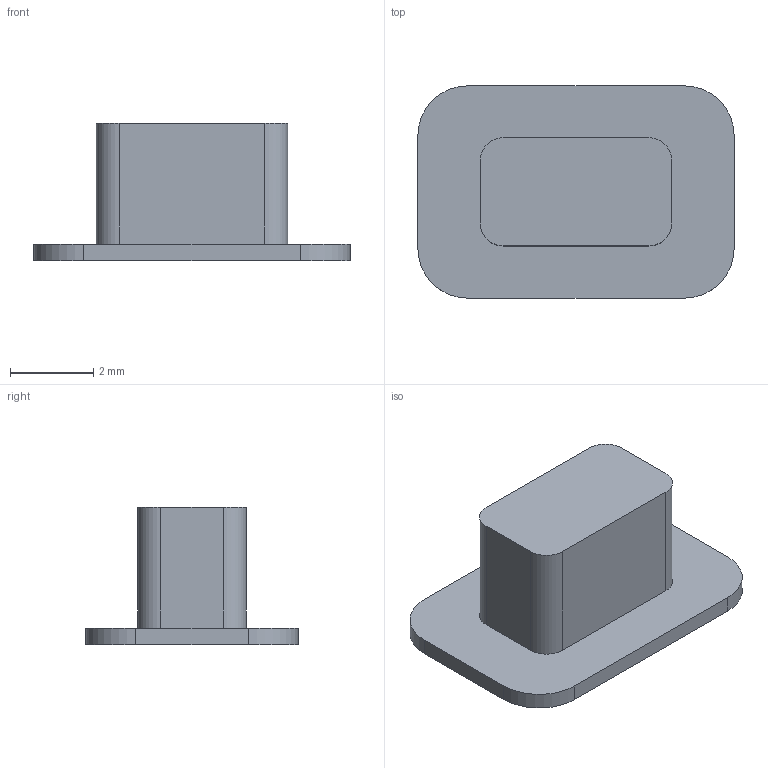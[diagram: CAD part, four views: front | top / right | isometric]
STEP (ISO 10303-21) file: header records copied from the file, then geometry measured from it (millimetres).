
FILE_DESCRIPTION(('Open CASCADE Model'),'2;1');
FILE_NAME('Open CASCADE Shape Model','2026-10-14T08:11:13',('Author'),( 'Open CASCADE'),'Open CASCADE STEP processor 7.9','Open CASCADE 7.9' ,'Unknown');
FILE_SCHEMA(('AUTOMOTIVE_DESIGN { 1 0 10303 214 1 1 1 1 }'));
Length unit declared in the file: millimetre
Products named in the file (1): Open CASCADE STEP translator 7.9 2
Bounding box: 7.6 x 5.1 x 3.31 mm (x, y, z)
Volume: 49 mm3; surface area: 123.5 mm2
Topology: 1 solids, 1 shells, 19 faces, 48 edges, 32 vertices
Faces by surface type: plane 11, cylinder 8
Entity records: 1222 total; most frequent: CARTESIAN_POINT 240, DIRECTION 186, LINE 104, VECTOR 104, ORIENTED_EDGE 96, PCURVE 96, DEFINITIONAL_REPRESENTATION 96, EDGE_CURVE 48
